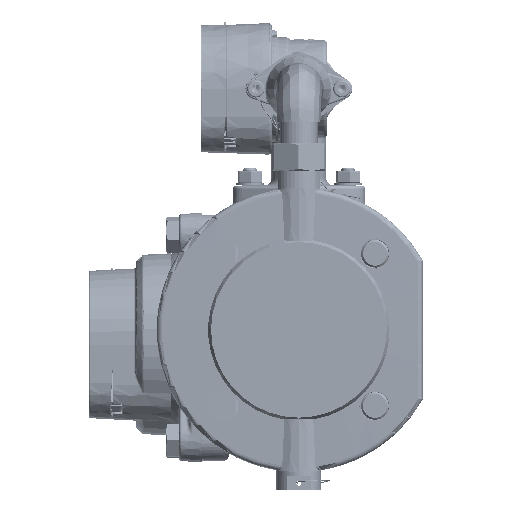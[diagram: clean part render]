
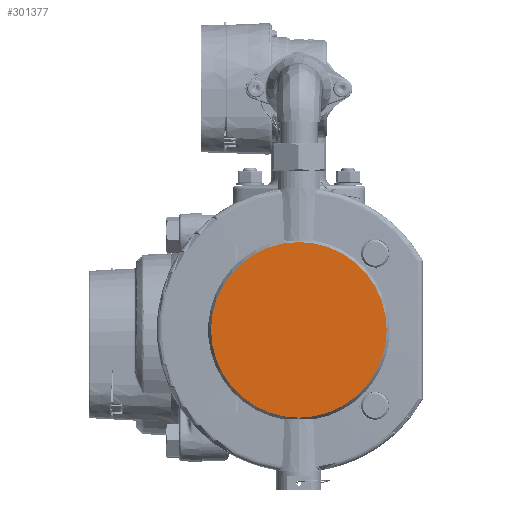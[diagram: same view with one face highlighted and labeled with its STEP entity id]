
A CAD part, left-side view. The second image highlights one B-rep face of the part: STEP entity #301377.
In plain terms, the highlighted planar face has unit normal (-1, 0, 0).
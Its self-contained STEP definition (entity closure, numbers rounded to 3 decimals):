
#3094 = CARTESIAN_POINT ( 'NONE',  ( -100., 0., 0. ) ) ;
#4358 = DIRECTION ( 'NONE',  ( 1., 0., 0. ) ) ;
#13447 = FACE_OUTER_BOUND ( 'NONE', #80009, .T. ) ;
#41595 = VERTEX_POINT ( 'NONE', #231123 ) ;
#43972 = EDGE_CURVE ( 'NONE', #41595, #211056, #130840, .T. ) ;
#80009 = EDGE_LOOP ( 'NONE', ( #94642, #323400 ) ) ;
#85250 = DIRECTION ( 'NONE',  ( 0., 0., -1. ) ) ;
#94642 = ORIENTED_EDGE ( 'NONE', *, *, #228327, .F. ) ;
#104318 = AXIS2_PLACEMENT_3D ( 'NONE', #155300, #4358, #236005 ) ;
#105374 = DIRECTION ( 'NONE',  ( 1., 0., 0. ) ) ;
#130840 = CIRCLE ( 'NONE', #104318, 51. ) ;
#155300 = CARTESIAN_POINT ( 'NONE',  ( -100., 0., 0. ) ) ;
#170197 = AXIS2_PLACEMENT_3D ( 'NONE', #253429, #277013, #255088 ) ;
#182125 = AXIS2_PLACEMENT_3D ( 'NONE', #3094, #105374, #85250 ) ;
#205508 = CARTESIAN_POINT ( 'NONE',  ( -100., 0., -51. ) ) ;
#207952 = CIRCLE ( 'NONE', #182125, 51. ) ;
#211056 = VERTEX_POINT ( 'NONE', #205508 ) ;
#228327 = EDGE_CURVE ( 'NONE', #211056, #41595, #207952, .T. ) ;
#231123 = CARTESIAN_POINT ( 'NONE',  ( -100., 0., 51. ) ) ;
#236005 = DIRECTION ( 'NONE',  ( 0., 0., -1. ) ) ;
#253429 = CARTESIAN_POINT ( 'NONE',  ( -100., 0., 0. ) ) ;
#255088 = DIRECTION ( 'NONE',  ( 0., -1., 0. ) ) ;
#277013 = DIRECTION ( 'NONE',  ( -1., 0., 0. ) ) ;
#300507 = PLANE ( 'NONE',  #170197 ) ;
#301377 = ADVANCED_FACE ( 'NONE', ( #13447 ), #300507, .T. ) ;
#323400 = ORIENTED_EDGE ( 'NONE', *, *, #43972, .F. ) ;
